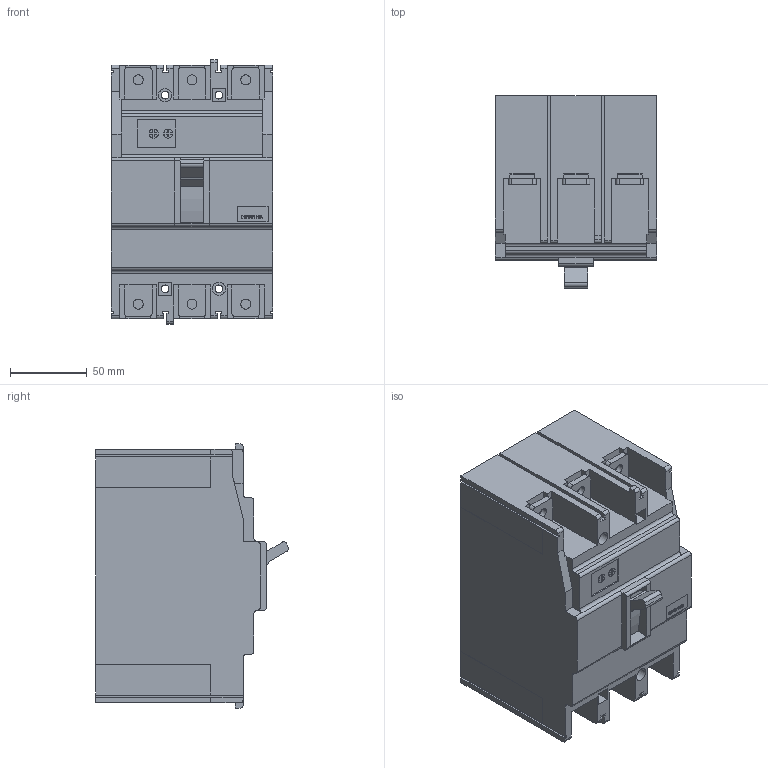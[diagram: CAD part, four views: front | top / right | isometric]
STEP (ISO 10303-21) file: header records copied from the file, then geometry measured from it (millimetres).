
FILE_DESCRIPTION((''),'2;1');
FILE_NAME('S250PE3125','2012-09-20T',('cmahecha'),(''),'PRO/ENGINEER BY PARAMETRIC TECHNOLOGY CORPORATION, 2010280','PRO/ENGINEER BY PARAMETRIC TECHNOLOGY CORPORATION, 2010280','');
FILE_SCHEMA(('CONFIG_CONTROL_DESIGN'));
Length unit declared in the file: millimetre
Products named in the file (1): S250PE3125
Bounding box: 105 x 125.39 x 172 mm (x, y, z)
Volume: 1605906 mm3; surface area: 121385 mm2
Topology: 1 solids, 1 shells, 466 faces, 1292 edges, 854 vertices
Faces by surface type: plane 394, cylinder 72
Entity records: 14774 total; most frequent: CARTESIAN_POINT 2612, ORIENTED_EDGE 2584, DIRECTION 2380, EDGE_CURVE 1292, VECTOR 1136, LINE 1136, VERTEX_POINT 854, AXIS2_PLACEMENT_3D 622
